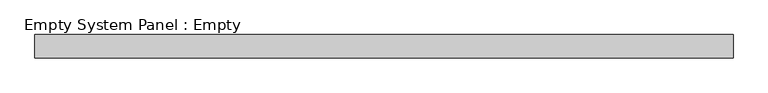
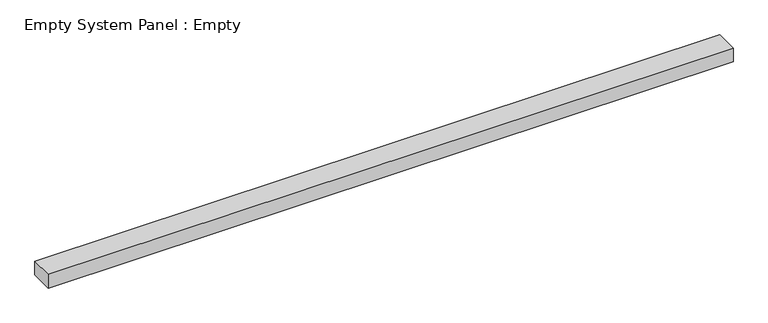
"""IFC4 building model written with IfcOpenShell, lengths in millimetres: plate geometry, Empty System Panel : Empty."""

from ifc_helpers import new_model, si_unit, origin, origin_with_axes, place, context, project, spatial, polyline, outline, extrude, source, transform, mapped, element, save


def empty_system_panel_empty_9aeebe66(model_context):
    return source(origin(), model_context, "Body", "SweptSolid", [
        extrude(outline(polyline([(1500.0, -50.0), (-1500.0, -50.0), (-1500.0, 50.0), (1500.0, 50.0), (1500.0, -50.0)])), origin_with_axes(), (0.0, 0.0, 1.0), 63.2304474),
    ])


if __name__ == "__main__":
    model = new_model("IFC4")
    model_context = context("Model", 3, world=origin())
    ifc_project = project(units=[si_unit("LENGTHUNIT", "METRE", prefix="MILLI")], contexts=[model_context])
    site = spatial("IfcSite", under=ifc_project)
    building = spatial("IfcBuilding", under=site)
    placement = place(None, origin())
    empty_system_panel_empty_shape = empty_system_panel_empty_9aeebe66(model_context)
    element("IfcPlate", 1, ObjectType="Empty System Panel : Empty", at=placement, inside=building, context=model_context, shape_type="MappedRepresentation", body=[
        mapped(empty_system_panel_empty_shape, transform((0.0, 0.0, 0.0), x_axis=(1.0, 0.0, 0.0), y_axis=(0.0, 1.0, 0.0), z_axis=(0.0, 0.0, 1.0))),
    ])
    save(model, "model.ifc")
